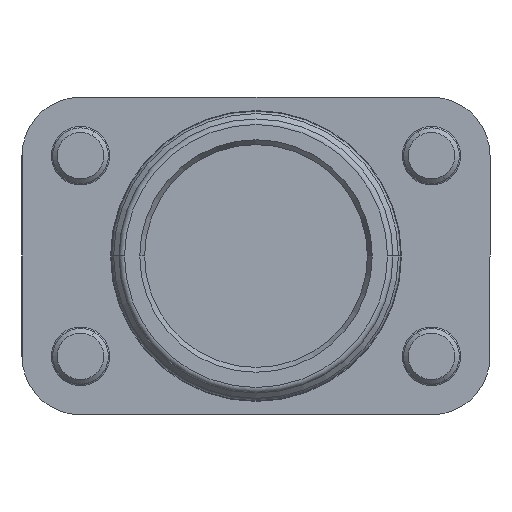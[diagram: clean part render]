
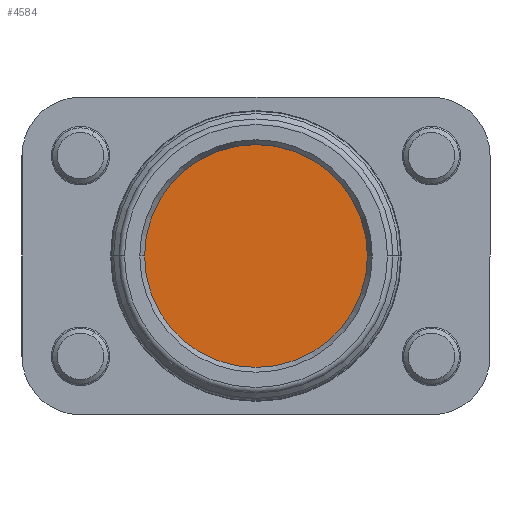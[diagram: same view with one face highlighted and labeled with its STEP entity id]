
A CAD part, front view. The second image highlights one B-rep face of the part: STEP entity #4584.
In plain terms, the highlighted planar face has unit normal (0, -1, 0).
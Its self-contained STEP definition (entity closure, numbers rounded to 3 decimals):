
#81 = DIRECTION ( 'NONE',  ( 0., -1., 0. ) ) ;
#223 = DIRECTION ( 'NONE',  ( 0., 0., -1. ) ) ;
#726 = AXIS2_PLACEMENT_3D ( 'NONE', #12008, #81, #8849 ) ;
#753 = FACE_OUTER_BOUND ( 'NONE', #9448, .T. ) ;
#1553 = CIRCLE ( 'NONE', #1861, 20. ) ;
#1805 = CARTESIAN_POINT ( 'NONE',  ( 0., 0., 0. ) ) ;
#1861 = AXIS2_PLACEMENT_3D ( 'NONE', #1805, #11804, #8640 ) ;
#3099 = CARTESIAN_POINT ( 'NONE',  ( 0., 0., 0. ) ) ;
#3977 = EDGE_CURVE ( 'NONE', #5269, #5006, #8795, .T. ) ;
#4584 = ADVANCED_FACE ( 'NONE', ( #753 ), #5156, .T. ) ;
#5006 = VERTEX_POINT ( 'NONE', #7792 ) ;
#5156 = PLANE ( 'NONE',  #12727 ) ;
#5185 = CARTESIAN_POINT ( 'NONE',  ( 0., 0., -20. ) ) ;
#5269 = VERTEX_POINT ( 'NONE', #5185 ) ;
#6108 = ORIENTED_EDGE ( 'NONE', *, *, #6863, .T. ) ;
#6863 = EDGE_CURVE ( 'NONE', #5006, #5269, #1553, .T. ) ;
#7792 = CARTESIAN_POINT ( 'NONE',  ( 0., 0., 20. ) ) ;
#8056 = ORIENTED_EDGE ( 'NONE', *, *, #3977, .T. ) ;
#8640 = DIRECTION ( 'NONE',  ( 0., 0., -1. ) ) ;
#8795 = CIRCLE ( 'NONE', #726, 20. ) ;
#8849 = DIRECTION ( 'NONE',  ( 0., 0., -1. ) ) ;
#9448 = EDGE_LOOP ( 'NONE', ( #8056, #6108 ) ) ;
#11804 = DIRECTION ( 'NONE',  ( 0., -1., 0. ) ) ;
#12008 = CARTESIAN_POINT ( 'NONE',  ( 0., 0., 0. ) ) ;
#12111 = DIRECTION ( 'NONE',  ( 0., -1., 0. ) ) ;
#12727 = AXIS2_PLACEMENT_3D ( 'NONE', #3099, #12111, #223 ) ;
